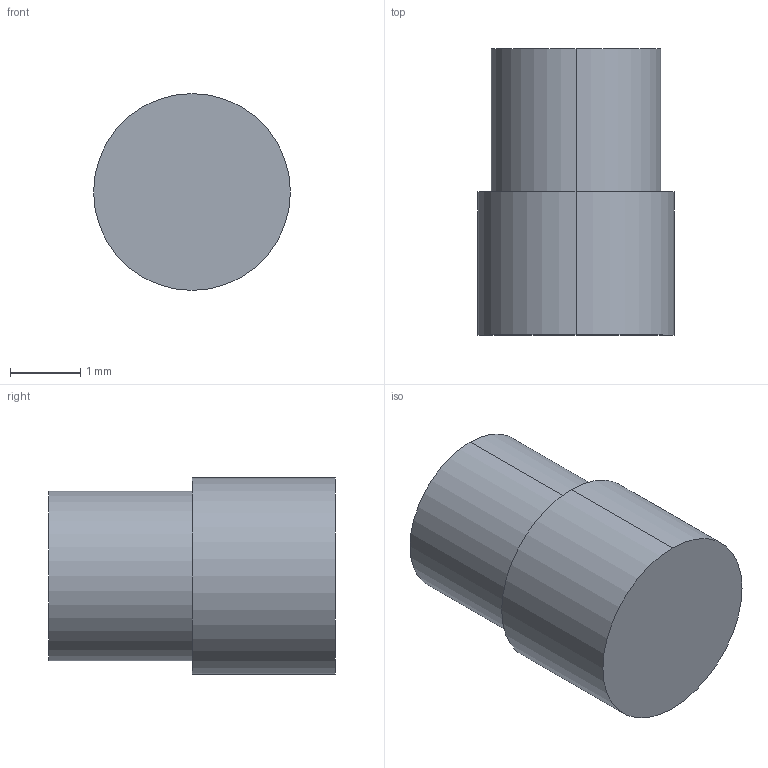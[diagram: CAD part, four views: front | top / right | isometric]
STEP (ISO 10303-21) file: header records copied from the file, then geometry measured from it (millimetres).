
FILE_DESCRIPTION (( 'STEP AP203' ), '1' );
FILE_NAME ('light peg 150.STEP', '2015-02-03T18:46:34', ( '' ), ( '' ), 'SwSTEP 2.0', 'SolidWorks 2014', '' );
FILE_SCHEMA (( 'CONFIG_CONTROL_DESIGN' ));
Length unit declared in the file: inch
Products named in the file (1): light peg 150
Bounding box: 2.79 x 4.06 x 2.79 mm (x, y, z)
Volume: 21.8 mm3; surface area: 45.5 mm2
Topology: 1 solids, 1 shells, 7 faces, 12 edges, 8 vertices
Faces by surface type: cylinder 4, plane 3
Entity records: 253 total; most frequent: DIRECTION 36, CARTESIAN_POINT 28, ORIENTED_EDGE 24, AXIS2_PLACEMENT_3D 16, EDGE_CURVE 12, PERSON_AND_ORGANIZATION 8, VERTEX_POINT 8, CIRCLE 8
